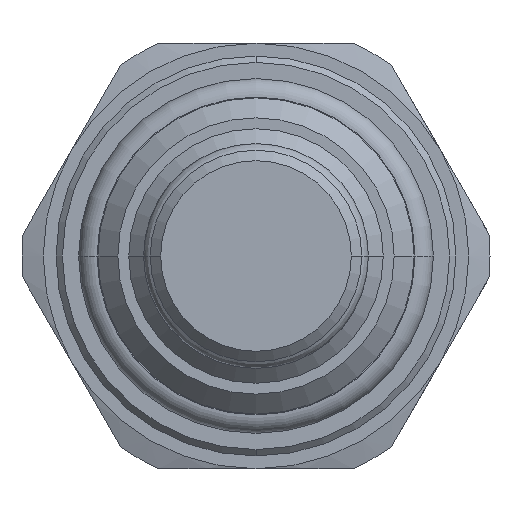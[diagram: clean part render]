
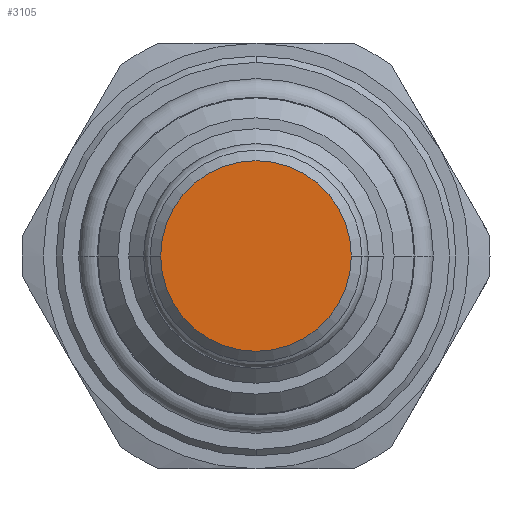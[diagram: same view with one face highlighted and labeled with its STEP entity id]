
A CAD part, front view. The second image highlights one B-rep face of the part: STEP entity #3105.
In plain terms, the highlighted planar face has unit normal (0, -1, 0).
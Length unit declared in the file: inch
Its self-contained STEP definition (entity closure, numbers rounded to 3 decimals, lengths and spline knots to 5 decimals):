
#1133=CARTESIAN_POINT('',(0.,-1.091,0.));
#1134=DIRECTION('',(0.,-1.,0.));
#1135=DIRECTION('',(-1.,0.,0.));
#1136=AXIS2_PLACEMENT_3D('',#1133,#1134,#1135);
#1147=CARTESIAN_POINT('',(0.,-1.091,0.));
#1148=DIRECTION('',(0.,-1.,0.));
#1149=DIRECTION('',(1.,0.,0.));
#1150=AXIS2_PLACEMENT_3D('',#1147,#1148,#1149);
#1825=CARTESIAN_POINT('',(-0.224,-1.091,0.));
#1826=CARTESIAN_POINT('',(0.224,-1.091,0.));
#1827=VERTEX_POINT('',#1825);
#1828=VERTEX_POINT('',#1826);
#3096=CARTESIAN_POINT('',(0.,-1.091,0.));
#3097=DIRECTION('',(0.,-1.,0.));
#3098=DIRECTION('',(-1.,0.,0.));
#3099=AXIS2_PLACEMENT_3D('',#3096,#3097,#3098);
#3100=PLANE('',#3099);
#3101=ORIENTED_EDGE('',*,*,#3076,.F.);
#3102=ORIENTED_EDGE('',*,*,#3090,.F.);
#3103=EDGE_LOOP('',(#3101,#3102));
#3104=FACE_OUTER_BOUND('',#3103,.F.);
#3105=ADVANCED_FACE('',(#3104),#3100,.T.);
#1137=CIRCLE('',#1136,0.224);
#1151=CIRCLE('',#1150,0.224);
#3076=EDGE_CURVE('',#1827,#1828,#1137,.T.);
#3090=EDGE_CURVE('',#1828,#1827,#1151,.T.);
